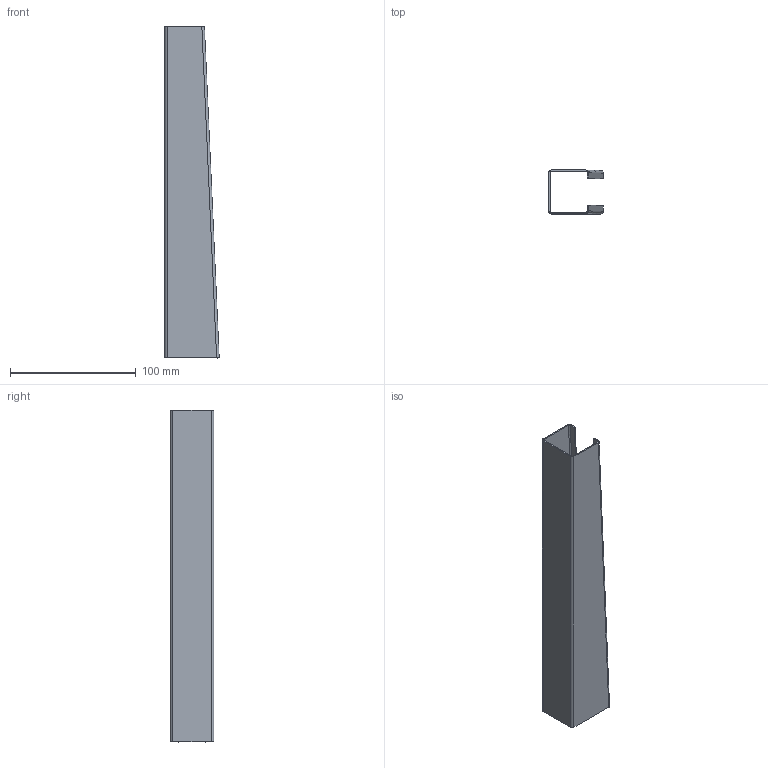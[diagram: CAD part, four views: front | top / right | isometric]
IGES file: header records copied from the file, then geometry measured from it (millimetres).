
Start section: SolidWorks IGES FILE using analytic representation for surfaces
Global section: file name: C:\AAA_Downloads\Gun Drawings\Guns\Iges Files\AK47_Blank.IGS; native system: SolidWorks 2004 by SolidWorks Corporation; preprocessor: Version 5.3; author: Me; date: 040229.194007; units: inch
Bounding box: 43.18 x 34.53 x 263.8 mm (x, y, z)
Surface area: 61690.5 mm2 (no closed solid volume)
Topology: 0 solids, 0 shells, 38 faces, 208 edges, 208 vertices
Faces by surface type: bspline 30, revolution 8
